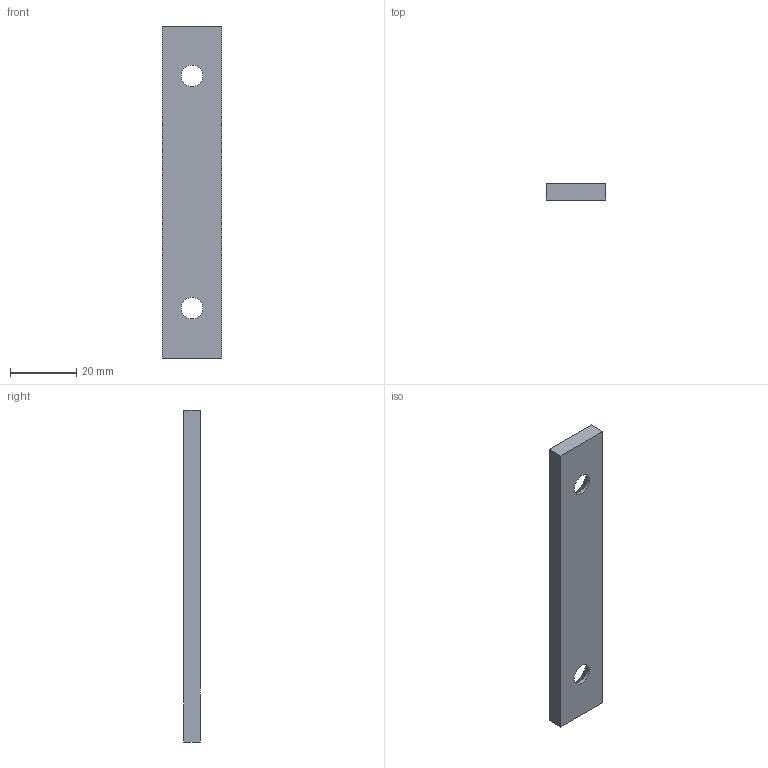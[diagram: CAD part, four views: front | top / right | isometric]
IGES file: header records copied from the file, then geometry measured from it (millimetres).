
Start section: Data from Parasolid IGES Translator 20.0.26, Copyright(c) 2006 Siemens P LM Software. All Rights Reserved.
Global section: file name: P605-01-018-100.igs; native system: By Siemens PLM Incorporated; preprocessor: XPlus GENERIC/IGES 20.0.26; author: Noname; organization: Noname; date: 20190705.145408; units: millimetre
Bounding box: 18 x 5 x 100 mm (x, y, z)
Surface area: 4797.4 mm2 (no closed solid volume)
Topology: 0 solids, 0 shells, 10 faces, 44 edges, 43 vertices
Faces by surface type: extrusion 6, revolution 4
